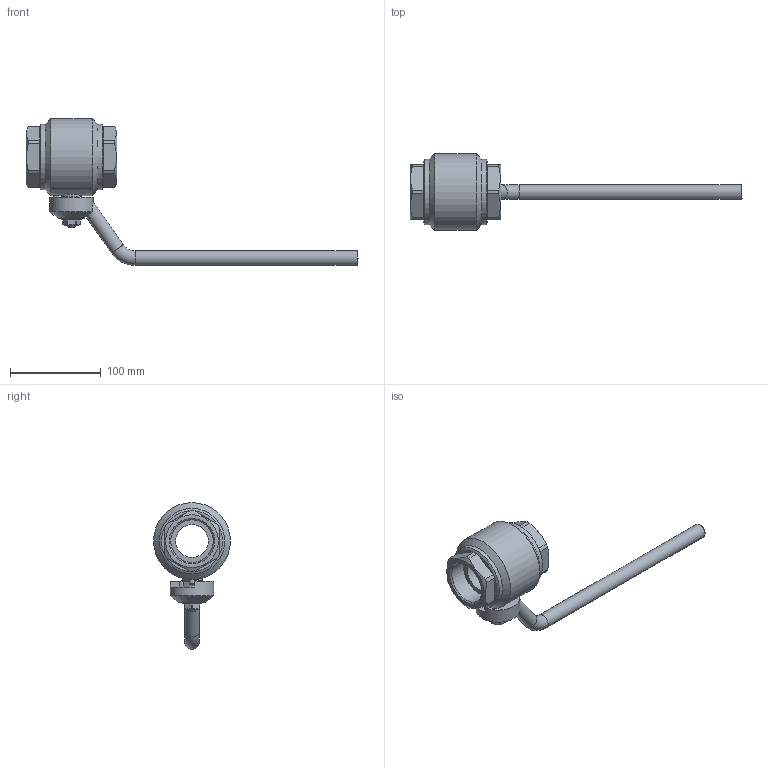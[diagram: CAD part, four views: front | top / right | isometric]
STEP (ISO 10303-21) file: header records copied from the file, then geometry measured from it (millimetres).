
FILE_DESCRIPTION(('STEP AP203'), '1');
FILE_NAME('ZARD 040.100.10.P.stp', '2013-12-06T06:59:54', ('Øèøêî'), ('Ýíåðïðåä ßðäîñ'), 'ASCON STEP Converter 1.3', 'Kompas 3D', '');
FILE_SCHEMA(('CONFIG_CONTROL_DESIGN','SUPPORT_RESOURCE_SCHEMA'));
Length unit declared in the file: millimetre
Products named in the file (1): 109
Bounding box: 365.01 x 84.5 x 161.25 mm (x, y, z)
Volume: 379598.8 mm3; surface area: 75092 mm2
Topology: 1 solids, 2 shells, 185 faces, 433 edges, 266 vertices
Faces by surface type: plane 96, cylinder 59, cone 22, torus 8
Full cylindrical faces by diameter (mm): 6 x1, 10 x2, 16 x3, 16.1 x1, 21.8 x1, 22 x2, 24.3 x1, 24.5 x1, 36 x2, 46.742 x2, 48 x1, 58.4 x1, 72 x2, 84.5 x1
Entity records: 7066 total; most frequent: CARTESIAN_POINT 2710, DIRECTION 925, ORIENTED_EDGE 866, EDGE_CURVE 433, AXIS2_PLACEMENT_3D 359, VERTEX_POINT 266, LINE 207, VECTOR 207
